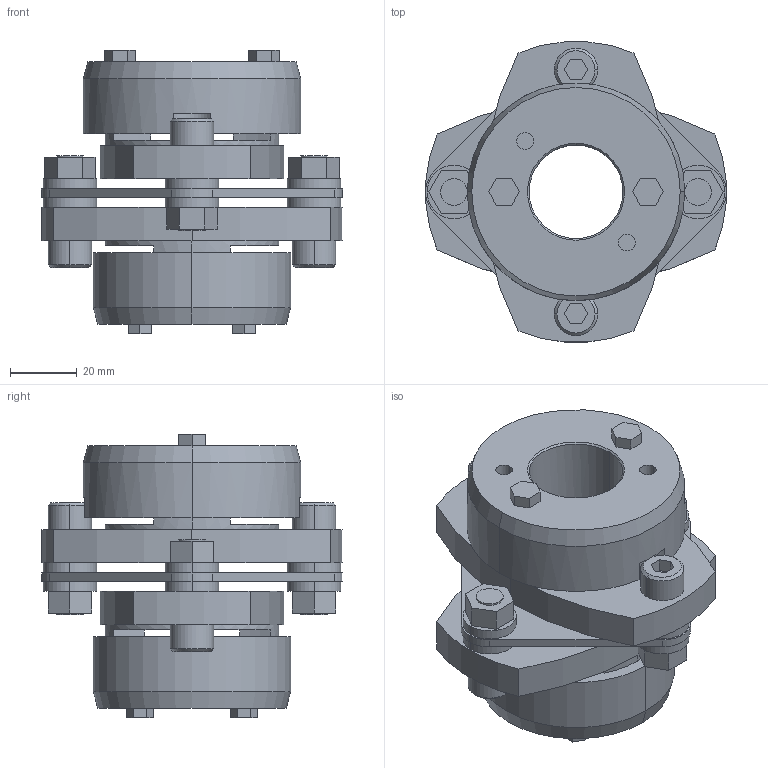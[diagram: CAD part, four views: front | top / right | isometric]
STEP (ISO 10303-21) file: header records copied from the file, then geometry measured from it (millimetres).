
FILE_DESCRIPTION((''),'2;1');
FILE_NAME('LCS-90T7-28×32.stp','2015-11-01T20:22:50',(''),(''),'AutoCAD STEP 2000i','AutoCAD 2000i',', , ');
FILE_SCHEMA(('CONFIG_CONTROL_DESIGN'));
Length unit declared in the file: millimetre
Products named in the file (12): LCS-90T7-30×32; 忣兜1; LC90T7-T032; LC90T7-T030-1; LC90T7-T030; LC90T7-T025-1; LC90T7-T025; LC90T7-T019-1; LC90T7-T019; LC90-B019-1; LC90-B019; LCS90-ITA
Assembly tree (11 placements, depth 2):
  LCS-90T7-30×32
    忣兜1
    LC90T7-T032
    LC90T7-T030-1
    LC90T7-T030
    LC90T7-T025-1
    LC90T7-T025
    LC90T7-T019-1
    LC90T7-T019
    LC90-B019-1
    LC90-B019
    LCS90-ITA
Bounding box: 90 x 89.94 x 84.8 mm (x, y, z)
Volume: 195208.6 mm3; surface area: 52568.3 mm2
Topology: 1 solids, 1 shells, 236 faces, 580 edges, 380 vertices
Faces by surface type: plane 134, cylinder 82, cone 20
Entity records: 7273 total; most frequent: DIRECTION 1280, CARTESIAN_POINT 1208, ORIENTED_EDGE 1160, EDGE_CURVE 580, AXIS2_PLACEMENT_3D 452, VERTEX_POINT 380, VECTOR 376, LINE 376
